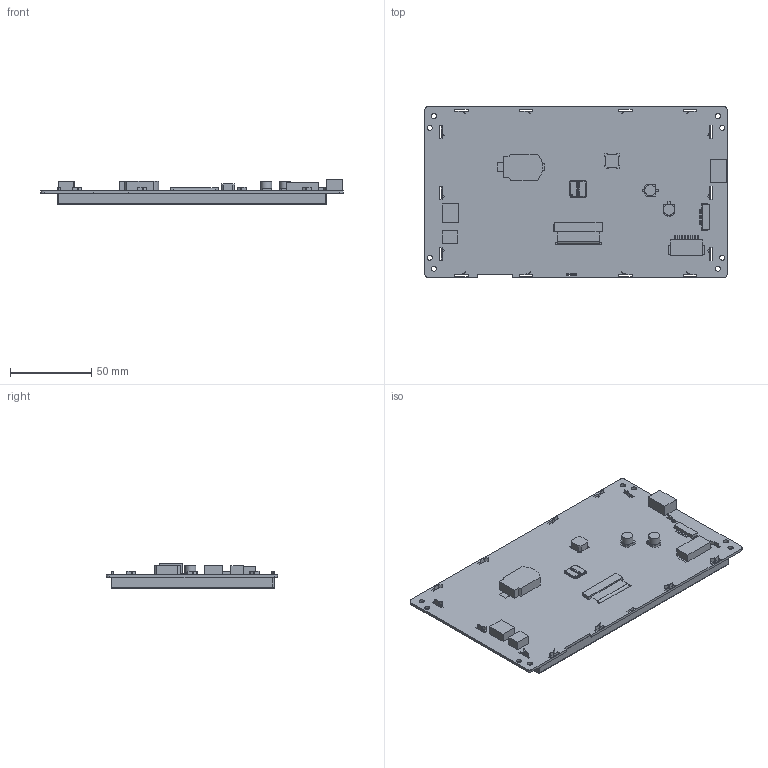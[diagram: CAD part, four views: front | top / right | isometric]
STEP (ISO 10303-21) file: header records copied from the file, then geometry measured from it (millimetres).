
FILE_DESCRIPTION(/* description */ (''),/* implementation_level */ '2;1');
FILE_NAME(/* name */ '',/* time_stamp */ '2023-07-26T18:26:20+08:00',/* author */ (''),/* organization */ (''),/* preprocessor_version */ 'ST-DEVELOPER v11',/* originating_system */ 'SIEMENS PLM Software NX 7.5',/* authorisation */ '');
FILE_SCHEMA (('AP203_CONFIGURATION_CONTROLLED_3D_DESIGN_OF_MECHANICAL_PARTS_AND_ASSEMBLIES_MIM_LF'));
Length unit declared in the file: millimetre
Products named in the file (1): 3D-SDWb070U74N_stp
Bounding box: 186.3 x 105.4 x 15.3 mm (x, y, z)
Volume: 221883.3 mm3; surface area: 120331.4 mm2
Topology: 18 solids, 18 shells, 1568 faces, 4464 edges, 2947 vertices
Faces by surface type: plane 1364, cylinder 197, bspline 7
Full cylindrical faces by diameter (mm): 3.2 x8, 6.776 x2
Entity records: 52400 total; most frequent: CARTESIAN_POINT 9401, ORIENTED_EDGE 8904, DIRECTION 7883, EDGE_CURVE 4452, LINE 4017, VECTOR 4017, VERTEX_POINT 2945, AXIS2_PLACEMENT_3D 1933
